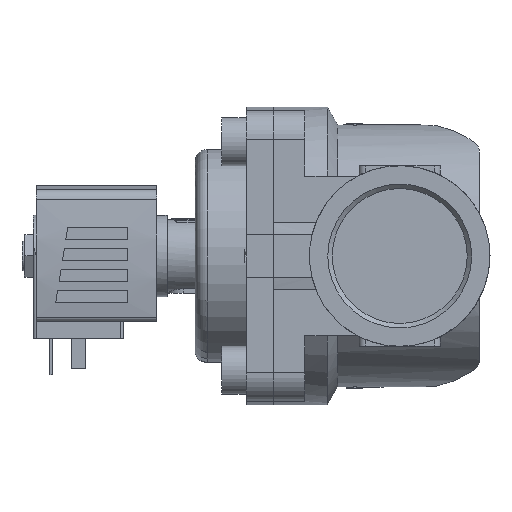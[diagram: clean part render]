
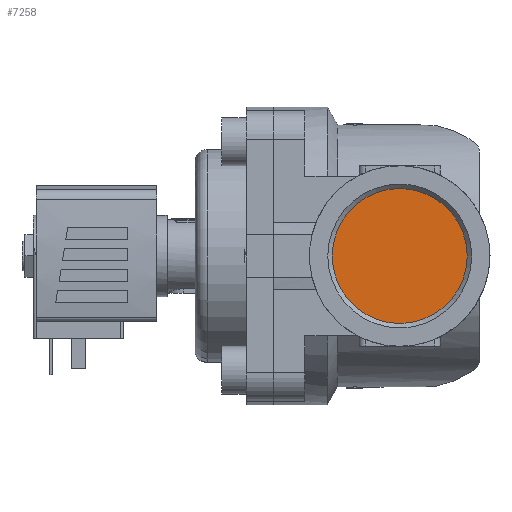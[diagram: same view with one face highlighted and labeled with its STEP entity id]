
A CAD part, left-side view. The second image highlights one B-rep face of the part: STEP entity #7258.
In plain terms, the highlighted planar face has unit normal (-1, 0, 0).
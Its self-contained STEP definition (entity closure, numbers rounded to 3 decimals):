
#2562=ORIENTED_EDGE('',*,*,#3731,.F.);
#3731=EDGE_CURVE('',#4416,#4416,#4748,.T.);
#4416=VERTEX_POINT('',#11246);
#4748=CIRCLE('',#7810,22.423);
#5058=EDGE_LOOP('',(#2562));
#5453=FACE_BOUND('',#5058,.T.);
#5738=PLANE('',#7811);
#7258=ADVANCED_FACE('',(#5453),#5738,.T.);
#7810=AXIS2_PLACEMENT_3D('',#11245,#9190,#9191);
#7811=AXIS2_PLACEMENT_3D('',#11247,#9192,#9193);
#9190=DIRECTION('',(1.,0.,0.));
#9191=DIRECTION('',(0.,0.,-1.));
#9192=DIRECTION('',(-1.,0.,0.));
#9193=DIRECTION('',(0.,0.,1.));
#11245=CARTESIAN_POINT('',(-36.,0.,0.));
#11246=CARTESIAN_POINT('',(-36.,0.,-22.423));
#11247=CARTESIAN_POINT('',(-36.,22.423,0.));
